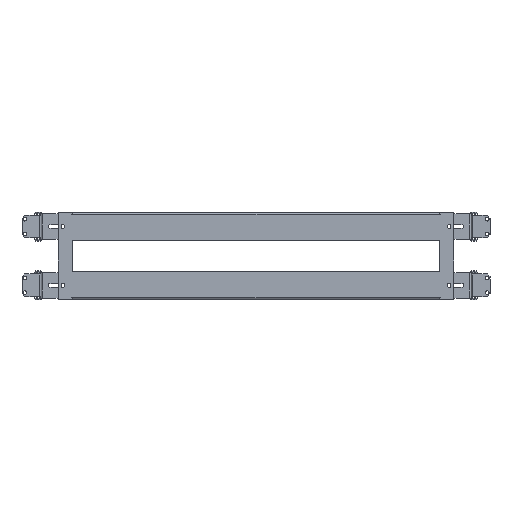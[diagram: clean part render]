
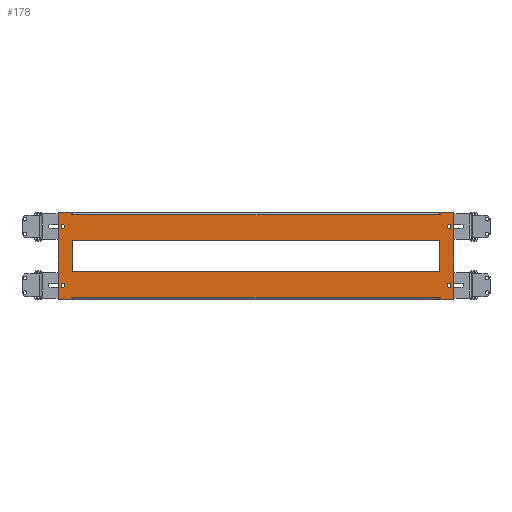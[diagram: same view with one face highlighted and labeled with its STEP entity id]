
A CAD part, top view. The second image highlights one B-rep face of the part: STEP entity #178.
In plain terms, the highlighted planar face has unit normal (0, 0, 1).
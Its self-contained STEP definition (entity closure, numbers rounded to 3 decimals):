
#178=ADVANCED_FACE('',(#4668,#4670,#4672,#4674,#4676,#4678),#4680,.F.);
#4668=FACE_BOUND('',#4669,.T.);
#4669=EDGE_LOOP('',(#8929,#8930,#8931,#8932,#8933,#8934,#8935,#8936,#8937,#8938,
#8939,#8940,#8941,#8942,#8943,#8944));
#4670=FACE_BOUND('',#4671,.T.);
#4671=EDGE_LOOP('',(#8945,#8946,#8947,#8948));
#4672=FACE_BOUND('',#4673,.T.);
#4673=EDGE_LOOP('',(#8949));
#4674=FACE_BOUND('',#4675,.T.);
#4675=EDGE_LOOP('',(#8950));
#4676=FACE_BOUND('',#4677,.T.);
#4677=EDGE_LOOP('',(#8951));
#4678=FACE_BOUND('',#4679,.T.);
#4679=EDGE_LOOP('',(#8952));
#4680=PLANE('',#4681);
#4681=AXIS2_PLACEMENT_3D('',#4682,#4683,#4684);
#4682=CARTESIAN_POINT('',(0.,0.,0.));
#4683=DIRECTION('',(0.,0.,-1.));
#4684=DIRECTION('',(-1.,0.,0.));
#8929=ORIENTED_EDGE('',*,*,#11141,.F.);
#8930=ORIENTED_EDGE('',*,*,#11142,.T.);
#8931=ORIENTED_EDGE('',*,*,#11143,.F.);
#8932=ORIENTED_EDGE('',*,*,#11144,.F.);
#8933=ORIENTED_EDGE('',*,*,#11145,.T.);
#8934=ORIENTED_EDGE('',*,*,#11146,.T.);
#8935=ORIENTED_EDGE('',*,*,#11147,.T.);
#8936=ORIENTED_EDGE('',*,*,#11148,.F.);
#8937=ORIENTED_EDGE('',*,*,#11149,.F.);
#8938=ORIENTED_EDGE('',*,*,#11150,.T.);
#8939=ORIENTED_EDGE('',*,*,#11151,.F.);
#8940=ORIENTED_EDGE('',*,*,#11152,.F.);
#8941=ORIENTED_EDGE('',*,*,#11153,.T.);
#8942=ORIENTED_EDGE('',*,*,#11154,.T.);
#8943=ORIENTED_EDGE('',*,*,#11155,.T.);
#8944=ORIENTED_EDGE('',*,*,#11156,.F.);
#8945=ORIENTED_EDGE('',*,*,#11157,.F.);
#8946=ORIENTED_EDGE('',*,*,#11158,.F.);
#8947=ORIENTED_EDGE('',*,*,#11159,.F.);
#8948=ORIENTED_EDGE('',*,*,#11160,.F.);
#8949=ORIENTED_EDGE('',*,*,#11113,.T.);
#8950=ORIENTED_EDGE('',*,*,#11115,.T.);
#8951=ORIENTED_EDGE('',*,*,#11117,.F.);
#8952=ORIENTED_EDGE('',*,*,#11119,.F.);
#11113=EDGE_CURVE('',#12221,#12221,#12222,.T.);
#11115=EDGE_CURVE('',#12225,#12225,#12226,.T.);
#11117=EDGE_CURVE('',#12229,#12229,#12230,.T.);
#11119=EDGE_CURVE('',#12233,#12233,#12234,.T.);
#11141=EDGE_CURVE('',#12277,#12278,#12279,.T.);
#11142=EDGE_CURVE('',#12277,#12280,#12281,.T.);
#11143=EDGE_CURVE('',#12282,#12280,#12283,.T.);
#11144=EDGE_CURVE('',#12284,#12282,#12285,.T.);
#11145=EDGE_CURVE('',#12284,#12286,#12287,.T.);
#11146=EDGE_CURVE('',#12286,#12288,#12289,.T.);
#11147=EDGE_CURVE('',#12288,#12290,#12291,.T.);
#11148=EDGE_CURVE('',#12292,#12290,#12293,.T.);
#11149=EDGE_CURVE('',#12294,#12292,#12295,.T.);
#11150=EDGE_CURVE('',#12294,#12296,#12297,.T.);
#11151=EDGE_CURVE('',#12298,#12296,#12299,.T.);
#11152=EDGE_CURVE('',#12300,#12298,#12301,.T.);
#11153=EDGE_CURVE('',#12300,#12302,#12303,.T.);
#11154=EDGE_CURVE('',#12302,#12304,#12305,.T.);
#11155=EDGE_CURVE('',#12304,#12306,#12307,.T.);
#11156=EDGE_CURVE('',#12278,#12306,#12308,.T.);
#11157=EDGE_CURVE('',#12309,#12310,#12311,.T.);
#11158=EDGE_CURVE('',#12312,#12309,#12313,.T.);
#11159=EDGE_CURVE('',#12314,#12312,#12315,.T.);
#11160=EDGE_CURVE('',#12310,#12314,#12316,.T.);
#12221=VERTEX_POINT('',#14081);
#12222=CIRCLE('',#14082,3.15);
#12225=VERTEX_POINT('',#14091);
#12226=CIRCLE('',#14092,3.15);
#12229=VERTEX_POINT('',#14101);
#12230=CIRCLE('',#14102,3.15);
#12233=VERTEX_POINT('',#14111);
#12234=CIRCLE('',#14112,3.15);
#12277=VERTEX_POINT('',#14201);
#12278=VERTEX_POINT('',#14202);
#12279=LINE('',#14203,#14204);
#12280=VERTEX_POINT('',#14206);
#12281=LINE('',#14207,#14208);
#12282=VERTEX_POINT('',#14210);
#12283=LINE('',#14211,#14212);
#12284=VERTEX_POINT('',#14214);
#12285=LINE('',#14215,#14216);
#12286=VERTEX_POINT('',#14218);
#12287=LINE('',#14219,#14220);
#12288=VERTEX_POINT('',#14222);
#12289=LINE('',#14223,#14224);
#12290=VERTEX_POINT('',#14226);
#12291=LINE('',#14227,#14228);
#12292=VERTEX_POINT('',#14230);
#12293=LINE('',#14231,#14232);
#12294=VERTEX_POINT('',#14234);
#12295=LINE('',#14235,#14236);
#12296=VERTEX_POINT('',#14238);
#12297=LINE('',#14239,#14240);
#12298=VERTEX_POINT('',#14242);
#12299=LINE('',#14243,#14244);
#12300=VERTEX_POINT('',#14246);
#12301=LINE('',#14247,#14248);
#12302=VERTEX_POINT('',#14250);
#12303=LINE('',#14251,#14252);
#12304=VERTEX_POINT('',#14254);
#12305=LINE('',#14255,#14256);
#12306=VERTEX_POINT('',#14258);
#12307=LINE('',#14259,#14260);
#12308=LINE('',#14262,#14263);
#12309=VERTEX_POINT('',#14265);
#12310=VERTEX_POINT('',#14266);
#12311=LINE('',#14267,#14268);
#12312=VERTEX_POINT('',#14270);
#12313=LINE('',#14271,#14272);
#12314=VERTEX_POINT('',#14274);
#12315=LINE('',#14275,#14276);
#12316=LINE('',#14278,#14279);
#14081=CARTESIAN_POINT('',(331.15,50.,0.));
#14082=AXIS2_PLACEMENT_3D('',#14083,#14084,#14085);
#14083=CARTESIAN_POINT('',(328.,50.,0.));
#14084=DIRECTION('',(0.,0.,-1.));
#14085=DIRECTION('',(1.,0.,0.));
#14091=CARTESIAN_POINT('',(331.15,-50.,0.));
#14092=AXIS2_PLACEMENT_3D('',#14093,#14094,#14095);
#14093=CARTESIAN_POINT('',(328.,-50.,0.));
#14094=DIRECTION('',(0.,0.,-1.));
#14095=DIRECTION('',(1.,0.,0.));
#14101=CARTESIAN_POINT('',(-324.85,50.,0.));
#14102=AXIS2_PLACEMENT_3D('',#14103,#14104,#14105);
#14103=CARTESIAN_POINT('',(-328.,50.,0.));
#14104=DIRECTION('',(0.,0.,1.));
#14105=DIRECTION('',(-1.,0.,0.));
#14111=CARTESIAN_POINT('',(-324.85,-50.,0.));
#14112=AXIS2_PLACEMENT_3D('',#14113,#14114,#14115);
#14113=CARTESIAN_POINT('',(-328.,-50.,0.));
#14114=DIRECTION('',(0.,0.,1.));
#14115=DIRECTION('',(-1.,0.,0.));
#14201=CARTESIAN_POINT('',(311.,70.3,0.));
#14202=CARTESIAN_POINT('',(313.,70.3,0.));
#14203=CARTESIAN_POINT('',(311.,70.3,0.));
#14204=VECTOR('',#14205,1.);
#14205=DIRECTION('',(1.,0.,0.));
#14206=CARTESIAN_POINT('',(-311.,70.3,0.));
#14207=CARTESIAN_POINT('',(311.,70.3,0.));
#14208=VECTOR('',#14209,1.);
#14209=DIRECTION('',(-1.,0.,0.));
#14210=CARTESIAN_POINT('',(-313.,70.3,0.));
#14211=CARTESIAN_POINT('',(-313.,70.3,0.));
#14212=VECTOR('',#14213,1.);
#14213=DIRECTION('',(1.,0.,0.));
#14214=CARTESIAN_POINT('',(-313.,73.5,0.));
#14215=CARTESIAN_POINT('',(-313.,73.5,0.));
#14216=VECTOR('',#14217,1.);
#14217=DIRECTION('',(0.,-1.,0.));
#14218=CARTESIAN_POINT('',(-336.,73.5,0.));
#14219=CARTESIAN_POINT('',(-313.,73.5,0.));
#14220=VECTOR('',#14221,1.);
#14221=DIRECTION('',(-1.,0.,0.));
#14222=CARTESIAN_POINT('',(-336.,-73.5,0.));
#14223=CARTESIAN_POINT('',(-336.,73.5,0.));
#14224=VECTOR('',#14225,1.);
#14225=DIRECTION('',(0.,-1.,0.));
#14226=CARTESIAN_POINT('',(-313.,-73.5,0.));
#14227=CARTESIAN_POINT('',(-336.,-73.5,0.));
#14228=VECTOR('',#14229,1.);
#14229=DIRECTION('',(1.,0.,0.));
#14230=CARTESIAN_POINT('',(-313.,-70.3,0.));
#14231=CARTESIAN_POINT('',(-313.,-70.3,0.));
#14232=VECTOR('',#14233,1.);
#14233=DIRECTION('',(0.,-1.,0.));
#14234=CARTESIAN_POINT('',(-311.,-70.3,0.));
#14235=CARTESIAN_POINT('',(-311.,-70.3,0.));
#14236=VECTOR('',#14237,1.);
#14237=DIRECTION('',(-1.,0.,0.));
#14238=CARTESIAN_POINT('',(311.,-70.3,0.));
#14239=CARTESIAN_POINT('',(-311.,-70.3,0.));
#14240=VECTOR('',#14241,1.);
#14241=DIRECTION('',(1.,0.,0.));
#14242=CARTESIAN_POINT('',(313.,-70.3,0.));
#14243=CARTESIAN_POINT('',(313.,-70.3,0.));
#14244=VECTOR('',#14245,1.);
#14245=DIRECTION('',(-1.,0.,0.));
#14246=CARTESIAN_POINT('',(313.,-73.5,0.));
#14247=CARTESIAN_POINT('',(313.,-73.5,0.));
#14248=VECTOR('',#14249,1.);
#14249=DIRECTION('',(0.,1.,0.));
#14250=CARTESIAN_POINT('',(336.,-73.5,0.));
#14251=CARTESIAN_POINT('',(313.,-73.5,0.));
#14252=VECTOR('',#14253,1.);
#14253=DIRECTION('',(1.,0.,0.));
#14254=CARTESIAN_POINT('',(336.,73.5,0.));
#14255=CARTESIAN_POINT('',(336.,-73.5,0.));
#14256=VECTOR('',#14257,1.);
#14257=DIRECTION('',(0.,1.,0.));
#14258=CARTESIAN_POINT('',(313.,73.5,0.));
#14259=CARTESIAN_POINT('',(336.,73.5,0.));
#14260=VECTOR('',#14261,1.);
#14261=DIRECTION('',(-1.,0.,0.));
#14262=CARTESIAN_POINT('',(313.,70.3,0.));
#14263=VECTOR('',#14264,1.);
#14264=DIRECTION('',(0.,1.,0.));
#14265=CARTESIAN_POINT('',(-312.5,-26.5,0.));
#14266=CARTESIAN_POINT('',(312.5,-26.5,0.));
#14267=CARTESIAN_POINT('',(-312.5,-26.5,0.));
#14268=VECTOR('',#14269,1.);
#14269=DIRECTION('',(1.,0.,0.));
#14270=CARTESIAN_POINT('',(-312.5,26.5,0.));
#14271=CARTESIAN_POINT('',(-312.5,26.5,0.));
#14272=VECTOR('',#14273,1.);
#14273=DIRECTION('',(0.,-1.,0.));
#14274=CARTESIAN_POINT('',(312.5,26.5,0.));
#14275=CARTESIAN_POINT('',(312.5,26.5,0.));
#14276=VECTOR('',#14277,1.);
#14277=DIRECTION('',(-1.,0.,0.));
#14278=CARTESIAN_POINT('',(312.5,-26.5,0.));
#14279=VECTOR('',#14280,1.);
#14280=DIRECTION('',(0.,1.,0.));
